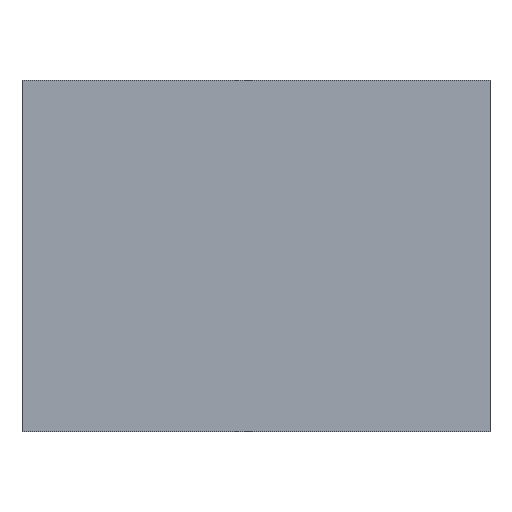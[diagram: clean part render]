
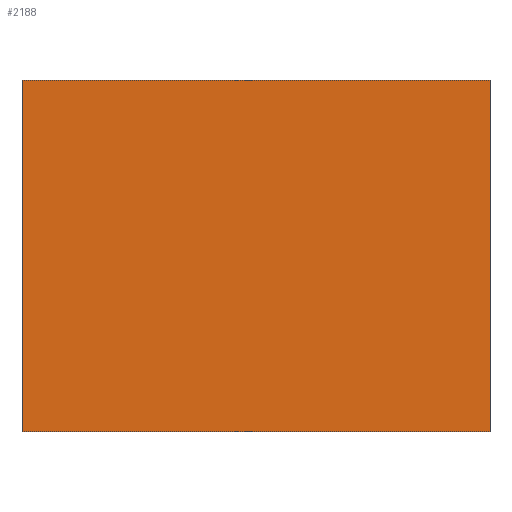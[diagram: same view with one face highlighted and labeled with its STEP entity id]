
A CAD part, front view. The second image highlights one B-rep face of the part: STEP entity #2188.
In plain terms, the highlighted planar face has unit normal (0, -1, 0).
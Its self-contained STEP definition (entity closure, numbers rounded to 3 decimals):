
#158 = LINE ( 'NONE', #781, #620 ) ;
#202 = VERTEX_POINT ( 'NONE', #601 ) ;
#336 = DIRECTION ( 'NONE',  ( 0., 0., 1. ) ) ;
#365 = CARTESIAN_POINT ( 'NONE',  ( -80., 0., -60. ) ) ;
#500 = EDGE_CURVE ( 'NONE', #2541, #1631, #2429, .T. ) ;
#548 = EDGE_CURVE ( 'NONE', #1445, #202, #2368, .T. ) ;
#599 = DIRECTION ( 'NONE',  ( 1., 0., 0. ) ) ;
#601 = CARTESIAN_POINT ( 'NONE',  ( -80., 0., 60. ) ) ;
#620 = VECTOR ( 'NONE', #1576, 1000. ) ;
#641 = VECTOR ( 'NONE', #599, 1000. ) ;
#781 = CARTESIAN_POINT ( 'NONE',  ( -80., 0., -60. ) ) ;
#871 = CARTESIAN_POINT ( 'NONE',  ( -80., 0., -60. ) ) ;
#874 = PLANE ( 'NONE',  #1087 ) ;
#913 = CARTESIAN_POINT ( 'NONE',  ( 0., 0., 0. ) ) ;
#958 = DIRECTION ( 'NONE',  ( 0., 0., -1. ) ) ;
#1087 = AXIS2_PLACEMENT_3D ( 'NONE', #913, #1126, #1316 ) ;
#1096 = LINE ( 'NONE', #2445, #641 ) ;
#1126 = DIRECTION ( 'NONE',  ( 0., 1., 0. ) ) ;
#1316 = DIRECTION ( 'NONE',  ( 0., 0., 1. ) ) ;
#1376 = VECTOR ( 'NONE', #958, 1000. ) ;
#1424 = ORIENTED_EDGE ( 'NONE', *, *, #500, .F. ) ;
#1445 = VERTEX_POINT ( 'NONE', #365 ) ;
#1576 = DIRECTION ( 'NONE',  ( -1., 0., 0. ) ) ;
#1631 = VERTEX_POINT ( 'NONE', #2019 ) ;
#1689 = EDGE_LOOP ( 'NONE', ( #1424, #2542, #1835, #2402 ) ) ;
#1754 = EDGE_CURVE ( 'NONE', #1631, #1445, #158, .T. ) ;
#1835 = ORIENTED_EDGE ( 'NONE', *, *, #548, .F. ) ;
#1837 = FACE_OUTER_BOUND ( 'NONE', #1689, .T. ) ;
#1839 = VECTOR ( 'NONE', #336, 1000. ) ;
#1878 = CARTESIAN_POINT ( 'NONE',  ( 80., 0., 60. ) ) ;
#2019 = CARTESIAN_POINT ( 'NONE',  ( 80., 0., -60. ) ) ;
#2046 = EDGE_CURVE ( 'NONE', #202, #2541, #1096, .T. ) ;
#2188 = ADVANCED_FACE ( 'NONE', ( #1837 ), #874, .F. ) ;
#2368 = LINE ( 'NONE', #871, #1839 ) ;
#2402 = ORIENTED_EDGE ( 'NONE', *, *, #1754, .F. ) ;
#2429 = LINE ( 'NONE', #2517, #1376 ) ;
#2445 = CARTESIAN_POINT ( 'NONE',  ( -80., 0., 60. ) ) ;
#2517 = CARTESIAN_POINT ( 'NONE',  ( 80., 0., -60. ) ) ;
#2541 = VERTEX_POINT ( 'NONE', #1878 ) ;
#2542 = ORIENTED_EDGE ( 'NONE', *, *, #2046, .F. ) ;
